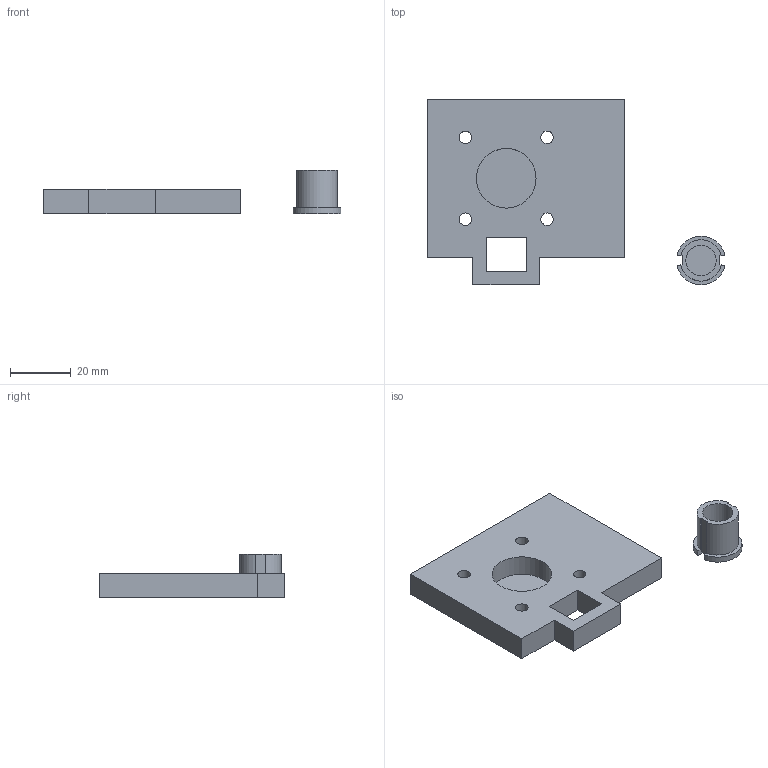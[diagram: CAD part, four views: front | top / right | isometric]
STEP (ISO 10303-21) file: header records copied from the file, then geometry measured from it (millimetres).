
FILE_DESCRIPTION(/* description */ (''),/* implementation_level */ '2;1');
FILE_NAME(/* name */ 'JOB03_PRINT.step',/* time_stamp */ '2026-11-14T21:40:02-08:00',/* author */ (''),/* organization */ (''),/* preprocessor_version */ 'ST-DEVELOPER v20.2',/* originating_system */ 'Autodesk Translation Framework v15.17.0.0',/* authorisation */ '');
FILE_SCHEMA (('AUTOMOTIVE_DESIGN { 1 0 10303 214 3 1 1 }'));
Length unit declared in the file: millimetre
Products named in the file (1): 2026-11-14-21-40-02-066
Bounding box: 97.86 x 61 x 14.3 mm (x, y, z)
Volume: 26030.6 mm3; surface area: 11451 mm2
Topology: 2 solids, 2 shells, 36 faces, 90 edges, 60 vertices
Faces by surface type: plane 26, cylinder 10
Full cylindrical faces by diameter (mm): 4.1 x4, 10 x1, 19.6 x1
Entity records: 1126 total; most frequent: CARTESIAN_POINT 187, DIRECTION 184, ORIENTED_EDGE 180, EDGE_CURVE 90, LINE 70, VECTOR 70, VERTEX_POINT 60, AXIS2_PLACEMENT_3D 57
